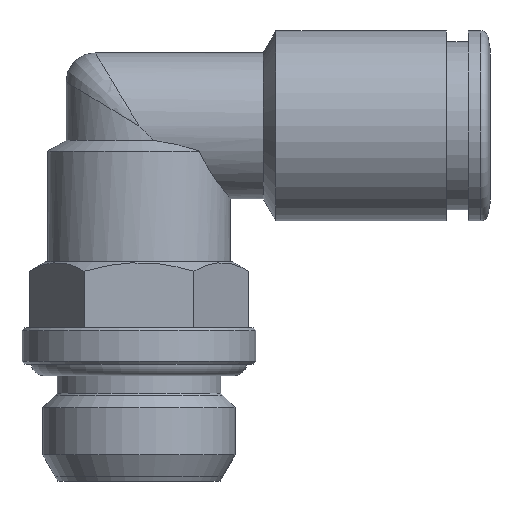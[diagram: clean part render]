
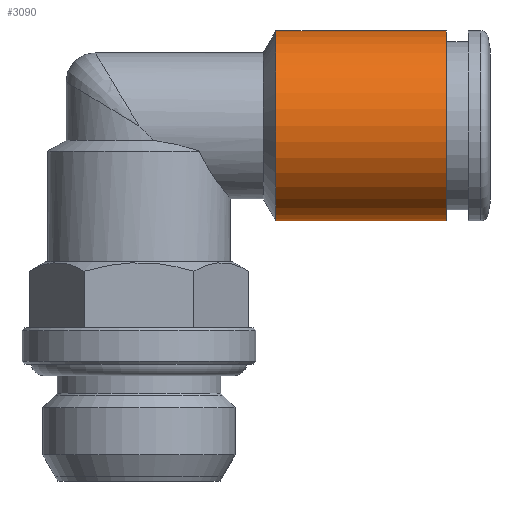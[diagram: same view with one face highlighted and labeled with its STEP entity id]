
A CAD part, front view. The second image highlights one B-rep face of the part: STEP entity #3090.
In plain terms, the highlighted cylindrical face has radius 6.5 mm (diameter 13 mm), a full revolution.
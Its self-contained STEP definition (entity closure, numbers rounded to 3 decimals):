
#3090=ADVANCED_FACE('', (#3100,#3110), #3120, .T.);
#8550=AXIS2_PLACEMENT_3D('Ax2Pl3d', #8560, #8570, #8580);
#9510=AXIS2_PLACEMENT_3D('Ax2Pl3d', #9520, #9530, #9540);
#9550=AXIS2_PLACEMENT_3D('Ax2Pl3d', #9560, #9570, #9580);
#8560=CARTESIAN_POINT('HicPkt', (35.711,9.419,26.216)
);
#22940=CARTESIAN_POINT('', (35.711,9.419,32.716));
#9520=CARTESIAN_POINT('HicPkt', (24.077,9.419,
26.216));
#23080=CARTESIAN_POINT('', (24.077,9.419,32.716));
#9560=CARTESIAN_POINT('HicPkt', (24.077,9.419,
26.216));
#23690=CIRCLE('Circle', #8550, 6.5);
#23790=CIRCLE('Circle', #9510, 6.5);
#3120=CYLINDRICAL_SURFACE('Zyl', #9550, 6.5);
#8570=DIRECTION('Axis', (-1.,0.,0.))
;
#8580=DIRECTION('RefDirection', (0.,
0.,-1.));
#9530=DIRECTION('Axis', (-1.,0.,0.))
;
#9540=DIRECTION('RefDirection', (0.,
0.,-1.));
#9570=DIRECTION('Axis', (1.,0.,0.));
#9580=DIRECTION('RefDirection', (0.,0.,-1.));
#28550=EDGE_CURVE('', #28560, #28560, #23690, .T.);
#28930=EDGE_CURVE('', #28940, #28940, #23790, .T.);
#32360=EDGE_LOOP('Edge_loop', (#32370));
#32380=EDGE_LOOP('Edge_loop', (#32390));
#3110=FACE_BOUND('', #32380, .T.);
#3100=FACE_OUTER_BOUND('Face_outer_bound', #32360, .T.);
#32370=ORIENTED_EDGE('', *, *, #28550, .T.);
#32390=ORIENTED_EDGE('', *, *, #28930, .F.);
#28560=VERTEX_POINT('', #22940);
#28940=VERTEX_POINT('', #23080);
